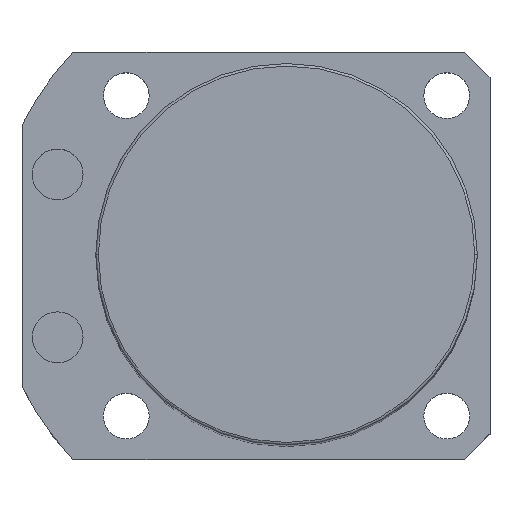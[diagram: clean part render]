
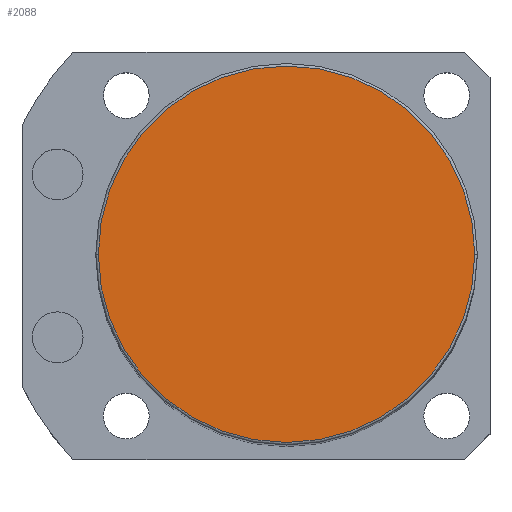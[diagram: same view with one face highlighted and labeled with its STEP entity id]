
A CAD part, top view. The second image highlights one B-rep face of the part: STEP entity #2088.
In plain terms, the highlighted planar face has unit normal (0, 0, 1).
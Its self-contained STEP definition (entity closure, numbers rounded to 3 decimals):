
#97 = DIRECTION ( 'NONE',  ( 1., 0., 0. ) ) ;
#210 = CIRCLE ( 'NONE', #1778, 37. ) ;
#230 = DIRECTION ( 'NONE',  ( 0., 0., 1. ) ) ;
#252 = CARTESIAN_POINT ( 'NONE',  ( 0., 0., 200.5 ) ) ;
#265 = CARTESIAN_POINT ( 'NONE',  ( 0., 0., 200.5 ) ) ;
#328 = ORIENTED_EDGE ( 'NONE', *, *, #1321, .T. ) ;
#397 = PLANE ( 'NONE',  #662 ) ;
#528 = VERTEX_POINT ( 'NONE', #566 ) ;
#566 = CARTESIAN_POINT ( 'NONE',  ( 37., 0., 200.5 ) ) ;
#662 = AXIS2_PLACEMENT_3D ( 'NONE', #252, #1639, #1230 ) ;
#732 = CARTESIAN_POINT ( 'NONE',  ( 0., 0., 200.5 ) ) ;
#966 = CIRCLE ( 'NONE', #2287, 37. ) ;
#1230 = DIRECTION ( 'NONE',  ( 1., 0., 0. ) ) ;
#1321 = EDGE_CURVE ( 'NONE', #1733, #528, #210, .T. ) ;
#1394 = EDGE_LOOP ( 'NONE', ( #2505, #328 ) ) ;
#1597 = EDGE_CURVE ( 'NONE', #528, #1733, #966, .T. ) ;
#1639 = DIRECTION ( 'NONE',  ( 0., 0., 1. ) ) ;
#1645 = CARTESIAN_POINT ( 'NONE',  ( -37., 0., 200.5 ) ) ;
#1733 = VERTEX_POINT ( 'NONE', #1645 ) ;
#1778 = AXIS2_PLACEMENT_3D ( 'NONE', #732, #2111, #97 ) ;
#2088 = ADVANCED_FACE ( 'NONE', ( #2193 ), #397, .T. ) ;
#2111 = DIRECTION ( 'NONE',  ( 0., 0., 1. ) ) ;
#2193 = FACE_OUTER_BOUND ( 'NONE', #1394, .T. ) ;
#2287 = AXIS2_PLACEMENT_3D ( 'NONE', #265, #230, #2445 ) ;
#2445 = DIRECTION ( 'NONE',  ( 1., 0., 0. ) ) ;
#2505 = ORIENTED_EDGE ( 'NONE', *, *, #1597, .T. ) ;
